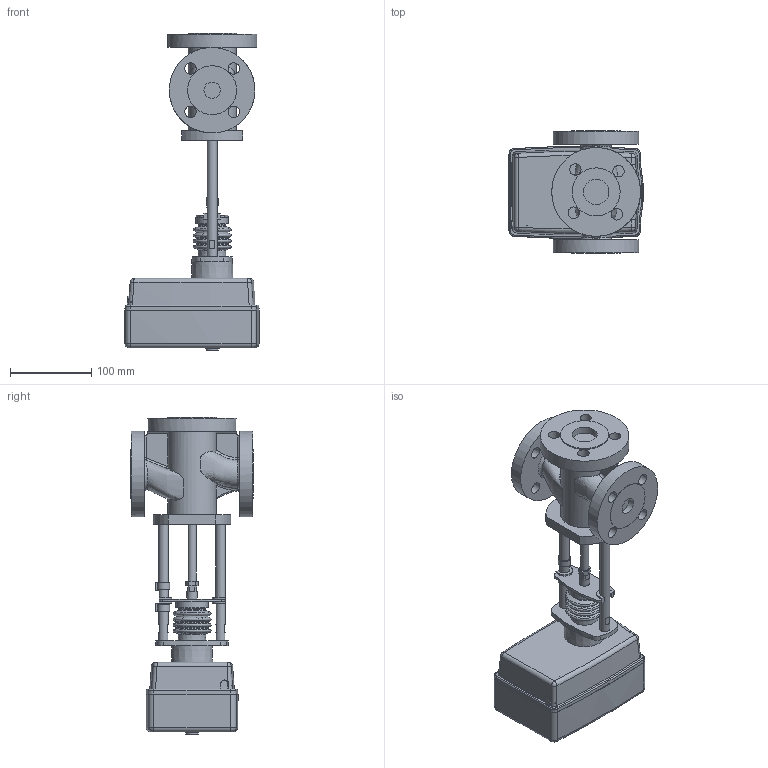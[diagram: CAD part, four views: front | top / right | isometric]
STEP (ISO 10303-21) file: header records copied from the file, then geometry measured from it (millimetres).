
FILE_DESCRIPTION(/* description */ ('Unknown'),/* implementation_level */ '2;1');
FILE_NAME(/* name */ 'TRV-3-20-101(модель)',/* time_stamp */ '2021-11-23T14:06:41+03:00',/* author */ ('Unknown'),/* organization */ ('Unknown'),/* preprocessor_version */ 'ST-DEVELOPER v16.7',/* originating_system */ 'DEX',/* authorisation */ $);
FILE_SCHEMA (('AUTOMOTIVE_DESIGN {1 0 10303 214 3 1 1}'));
Length unit declared in the file: millimetre
Products named in the file (1): TRV-3-20-101(斁麧錪)
Bounding box: 164.51 x 150 x 389.91 mm (x, y, z)
Volume: 2456851.3 mm3; surface area: 225012.2 mm2
Topology: 1 solids, 1 shells, 395 faces, 1018 edges, 637 vertices
Faces by surface type: plane 179, cylinder 105, bspline 38, torus 37, cone 22, sphere 14
Full cylindrical faces by diameter (mm): 9.861 x1, 12.002 x4, 13 x1, 14 x12, 15 x1, 20 x2, 31 x1, 33.4 x1, 33.972 x1, 40 x1, 59 x2, 60 x2, 105 x2, 109 x1
Entity records: 17163 total; most frequent: CARTESIAN_POINT 5301, DIRECTION 1882, ORIENTED_EDGE 1824, EDGE_CURVE 912, AXIS2_PLACEMENT_3D 742, VERTEX_POINT 601, EDGE_LOOP 509, FACE_BOUND 509
